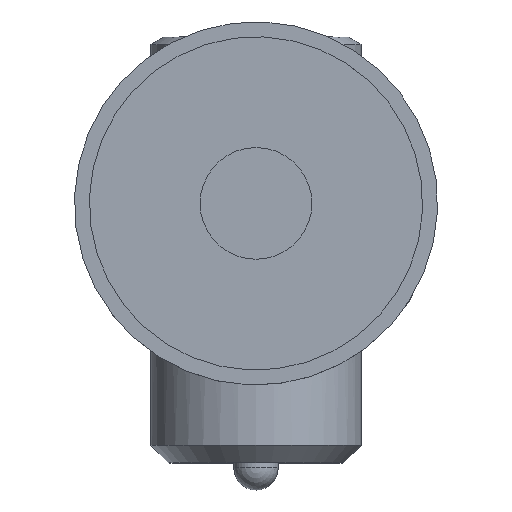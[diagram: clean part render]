
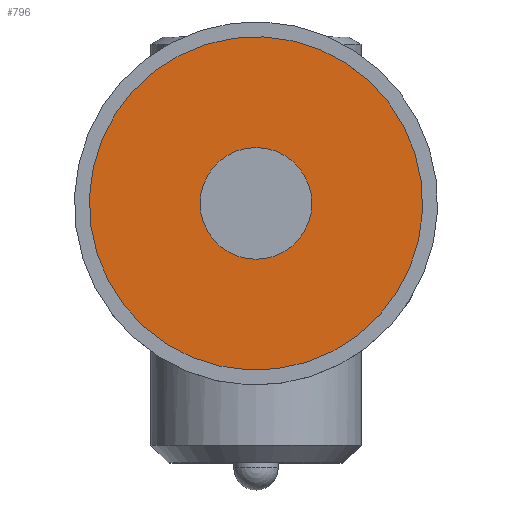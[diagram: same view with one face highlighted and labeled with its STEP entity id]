
A CAD part, top view. The second image highlights one B-rep face of the part: STEP entity #796.
In plain terms, the highlighted planar face has unit normal (0, 0, 1).
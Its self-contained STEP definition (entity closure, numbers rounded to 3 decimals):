
#717=FACE_BOUND('',#917,.T.);
#718=FACE_BOUND('',#918,.T.);
#796=ADVANCED_FACE('',(#717,#718),#849,.F.);
#849=PLANE('',#1935);
#917=EDGE_LOOP('',(#1023));
#918=EDGE_LOOP('',(#1024));
#1023=ORIENTED_EDGE('',*,*,#1673,.T.);
#1024=ORIENTED_EDGE('',*,*,#1672,.F.);
#1456=VERTEX_POINT('',#2316);
#1457=VERTEX_POINT('',#2319);
#1672=EDGE_CURVE('',#1456,#1456,#1892,.T.);
#1673=EDGE_CURVE('',#1457,#1457,#1893,.T.);
#1892=CIRCLE('',#1932,19.);
#1893=CIRCLE('',#1934,6.368);
#1932=AXIS2_PLACEMENT_3D('',#2315,#2036,#2037);
#1934=AXIS2_PLACEMENT_3D('',#2318,#2040,#2041);
#1935=AXIS2_PLACEMENT_3D('',#2320,#2042,#2043);
#2036=DIRECTION('',(0.,0.,-1.));
#2037=DIRECTION('',(-0.131,0.991,0.));
#2040=DIRECTION('',(0.,0.,-1.));
#2041=DIRECTION('',(-1.,0.,0.));
#2042=DIRECTION('',(0.,0.,-1.));
#2043=DIRECTION('',(-0.131,0.991,0.));
#2315=CARTESIAN_POINT('',(0.,0.,0.));
#2316=CARTESIAN_POINT('',(-2.48,18.837,0.));
#2318=CARTESIAN_POINT('',(0.,0.,0.));
#2319=CARTESIAN_POINT('',(-6.368,0.,0.));
#2320=CARTESIAN_POINT('',(0.,0.,0.));
